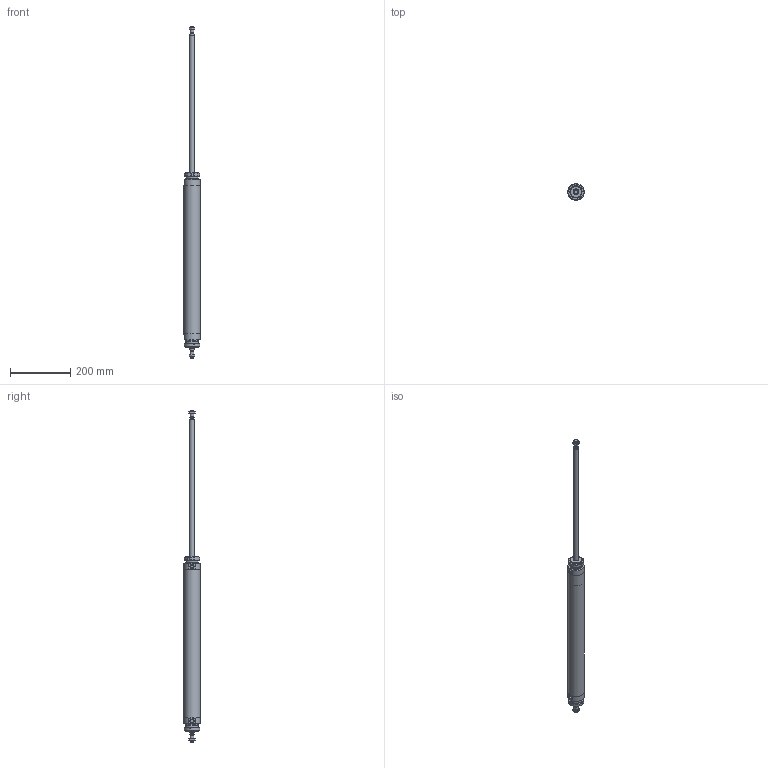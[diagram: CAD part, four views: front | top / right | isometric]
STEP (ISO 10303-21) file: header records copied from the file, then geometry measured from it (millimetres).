
FILE_DESCRIPTION(/* description */ (''),/* implementation_level */ '2;1');
FILE_NAME(/* name */ 'I:\Area Tecnica\Documenti\A-Manieri\_Inventor\12X\12X#S_###_####_#_#\12XCS_050_0450_#_#.stp',/* time_stamp */ '2015-05-08T14:19:37+02:00',/* author */ ('maniean1'),/* organization */ ('Pneumax S.p.A.'),/* preprocessor_version */ 'ST-DEVELOPER v15.2',/* originating_system */ 'Autodesk Inventor 2014',/* authorisation */ '');
FILE_SCHEMA (('AUTOMOTIVE_DESIGN { 1 0 10303 214 3 1 1 }'));
Length unit declared in the file: millimetre
Products named in the file (6): C1250_619-0450; 12X50_604; SP12X50_0450; 12X_50_11; G12X_050_05; 12XCS_050_0450_#_#
Bounding box: 54 x 54 x 1102 mm (x, y, z)
Volume: 606323.4 mm3; surface area: 261308.1 mm2
Topology: 8 solids, 8 shells, 133 faces, 303 edges, 194 vertices
Faces by surface type: plane 66, cone 34, cylinder 33
Full cylindrical faces by diameter (mm): 10.2 x2, 11.4 x2, 12 x4, 14 x2, 15.6 x2, 16 x2, 38.2 x2, 40 x6, 50 x2, 54 x3
Entity records: 2300 total; most frequent: CARTESIAN_POINT 435, DIRECTION 388, ORIENTED_EDGE 310, AXIS2_PLACEMENT_3D 166, EDGE_CURVE 155, EDGE_LOOP 130, VERTEX_POINT 117, ADVANCED_FACE 85
